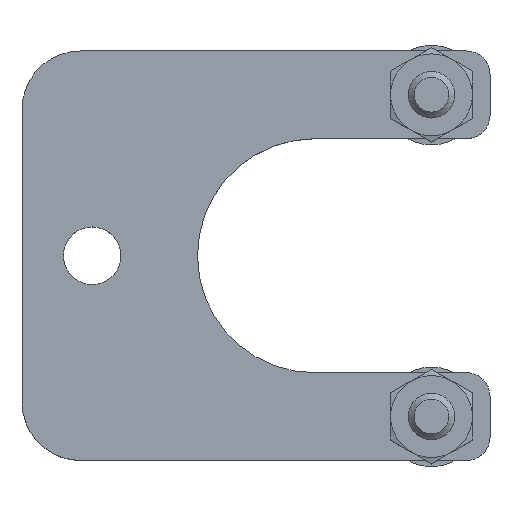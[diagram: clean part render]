
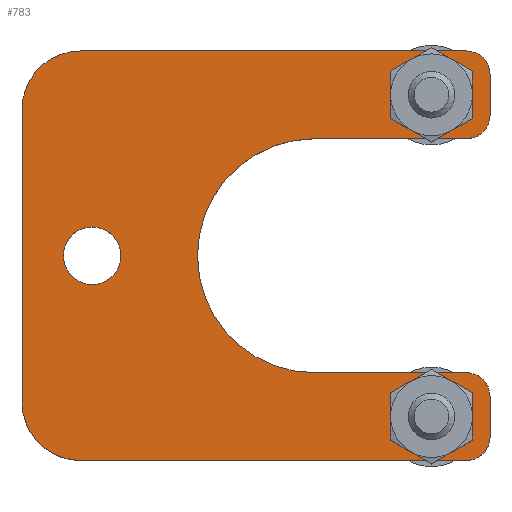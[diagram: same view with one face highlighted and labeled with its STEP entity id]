
A CAD part, top view. The second image highlights one B-rep face of the part: STEP entity #783.
In plain terms, the highlighted planar face has unit normal (0, 0, 1).
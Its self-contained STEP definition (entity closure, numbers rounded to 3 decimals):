
#112=FACE_BOUND('',#223,.T.);
#113=FACE_BOUND('',#224,.T.);
#114=FACE_BOUND('',#225,.T.);
#137=PLANE('',#863);
#169=FACE_OUTER_BOUND('',#222,.T.);
#222=EDGE_LOOP('',(#628,#629,#630,#631,#632,#633,#634,#635,#636,#637,#638,
#639,#640,#641));
#223=EDGE_LOOP('',(#642));
#224=EDGE_LOOP('',(#643));
#225=EDGE_LOOP('',(#644));
#272=LINE('',#1212,#306);
#281=LINE('',#1250,#315);
#285=LINE('',#1260,#319);
#288=LINE('',#1268,#322);
#291=LINE('',#1277,#325);
#293=LINE('',#1292,#327);
#295=LINE('',#1297,#329);
#306=VECTOR('',#951,3.5);
#315=VECTOR('',#986,13.);
#319=VECTOR('',#996,3.5);
#322=VECTOR('',#1005,33.);
#325=VECTOR('',#1014,25.);
#327=VECTOR('',#1034,13.);
#329=VECTOR('',#1042,33.);
#337=CIRCLE('',#827,2.);
#347=CIRCLE('',#840,2.);
#348=CIRCLE('',#843,2.);
#349=CIRCLE('',#846,2.);
#350=CIRCLE('',#849,5.);
#351=CIRCLE('',#852,5.);
#352=CIRCLE('',#854,1.621);
#353=CIRCLE('',#856,1.621);
#354=CIRCLE('',#858,2.459);
#355=CIRCLE('',#861,10.);
#381=VERTEX_POINT('',#1202);
#382=VERTEX_POINT('',#1204);
#384=VERTEX_POINT('',#1210);
#399=VERTEX_POINT('',#1244);
#400=VERTEX_POINT('',#1248);
#401=VERTEX_POINT('',#1252);
#402=VERTEX_POINT('',#1254);
#403=VERTEX_POINT('',#1258);
#404=VERTEX_POINT('',#1262);
#405=VERTEX_POINT('',#1266);
#406=VERTEX_POINT('',#1270);
#407=VERTEX_POINT('',#1272);
#408=VERTEX_POINT('',#1276);
#409=VERTEX_POINT('',#1282);
#410=VERTEX_POINT('',#1285);
#411=VERTEX_POINT('',#1288);
#412=VERTEX_POINT('',#1291);
#450=EDGE_CURVE('',#381,#382,#337,.T.);
#454=EDGE_CURVE('',#381,#384,#272,.T.);
#471=EDGE_CURVE('',#399,#384,#347,.T.);
#473=EDGE_CURVE('',#399,#400,#281,.T.);
#475=EDGE_CURVE('',#401,#402,#348,.T.);
#478=EDGE_CURVE('',#401,#403,#285,.T.);
#480=EDGE_CURVE('',#404,#403,#349,.T.);
#482=EDGE_CURVE('',#404,#405,#288,.T.);
#484=EDGE_CURVE('',#406,#407,#350,.T.);
#486=EDGE_CURVE('',#408,#407,#291,.T.);
#488=EDGE_CURVE('',#408,#405,#351,.T.);
#489=EDGE_CURVE('',#409,#409,#352,.T.);
#490=EDGE_CURVE('',#410,#410,#353,.T.);
#491=EDGE_CURVE('',#411,#411,#354,.T.);
#492=EDGE_CURVE('',#412,#402,#293,.T.);
#494=EDGE_CURVE('',#400,#412,#355,.T.);
#495=EDGE_CURVE('',#406,#382,#295,.T.);
#628=ORIENTED_EDGE('',*,*,#450,.F.);
#629=ORIENTED_EDGE('',*,*,#454,.T.);
#630=ORIENTED_EDGE('',*,*,#471,.F.);
#631=ORIENTED_EDGE('',*,*,#473,.T.);
#632=ORIENTED_EDGE('',*,*,#494,.T.);
#633=ORIENTED_EDGE('',*,*,#492,.T.);
#634=ORIENTED_EDGE('',*,*,#475,.F.);
#635=ORIENTED_EDGE('',*,*,#478,.T.);
#636=ORIENTED_EDGE('',*,*,#480,.F.);
#637=ORIENTED_EDGE('',*,*,#482,.T.);
#638=ORIENTED_EDGE('',*,*,#488,.F.);
#639=ORIENTED_EDGE('',*,*,#486,.T.);
#640=ORIENTED_EDGE('',*,*,#484,.F.);
#641=ORIENTED_EDGE('',*,*,#495,.T.);
#642=ORIENTED_EDGE('',*,*,#489,.T.);
#643=ORIENTED_EDGE('',*,*,#490,.T.);
#644=ORIENTED_EDGE('',*,*,#491,.T.);
#783=ADVANCED_FACE('',(#169,#112,#113,#114),#137,.T.);
#827=AXIS2_PLACEMENT_3D('',#1205,#944,#945);
#840=AXIS2_PLACEMENT_3D('',#1246,#981,#982);
#843=AXIS2_PLACEMENT_3D('',#1255,#990,#991);
#846=AXIS2_PLACEMENT_3D('',#1264,#1000,#1001);
#849=AXIS2_PLACEMENT_3D('',#1273,#1009,#1010);
#852=AXIS2_PLACEMENT_3D('',#1280,#1018,#1019);
#854=AXIS2_PLACEMENT_3D('',#1283,#1022,#1023);
#856=AXIS2_PLACEMENT_3D('',#1286,#1026,#1027);
#858=AXIS2_PLACEMENT_3D('',#1289,#1030,#1031);
#861=AXIS2_PLACEMENT_3D('',#1295,#1038,#1039);
#863=AXIS2_PLACEMENT_3D('',#1298,#1043,#1044);
#944=DIRECTION('center_axis',(0.,0.,-1.));
#945=DIRECTION('ref_axis',(0.707,-0.707,0.));
#951=DIRECTION('',(0.,1.,0.));
#981=DIRECTION('center_axis',(0.,0.,-1.));
#982=DIRECTION('ref_axis',(0.707,0.707,0.));
#986=DIRECTION('',(-1.,0.,0.));
#990=DIRECTION('center_axis',(0.,0.,-1.));
#991=DIRECTION('ref_axis',(0.707,-0.707,0.));
#996=DIRECTION('',(0.,1.,0.));
#1000=DIRECTION('center_axis',(0.,0.,-1.));
#1001=DIRECTION('ref_axis',(0.707,0.707,0.));
#1005=DIRECTION('',(-1.,0.,0.));
#1009=DIRECTION('center_axis',(0.,0.,-1.));
#1010=DIRECTION('ref_axis',(-0.707,-0.707,0.));
#1014=DIRECTION('',(0.,-1.,0.));
#1018=DIRECTION('center_axis',(0.,0.,-1.));
#1019=DIRECTION('ref_axis',(-0.707,0.707,0.));
#1022=DIRECTION('center_axis',(0.,0.,-1.));
#1023=DIRECTION('ref_axis',(1.,0.,0.));
#1026=DIRECTION('center_axis',(0.,0.,-1.));
#1027=DIRECTION('ref_axis',(1.,0.,0.));
#1030=DIRECTION('center_axis',(0.,0.,-1.));
#1031=DIRECTION('ref_axis',(1.,0.,0.));
#1034=DIRECTION('',(1.,0.,0.));
#1038=DIRECTION('center_axis',(0.,0.,-1.));
#1039=DIRECTION('ref_axis',(0.,1.,0.));
#1042=DIRECTION('',(1.,0.,0.));
#1043=DIRECTION('center_axis',(0.,0.,1.));
#1044=DIRECTION('ref_axis',(1.,0.,0.));
#1202=CARTESIAN_POINT('',(40.,-15.5,2.5));
#1204=CARTESIAN_POINT('',(38.,-17.5,2.5));
#1205=CARTESIAN_POINT('Origin',(38.,-15.5,2.5));
#1210=CARTESIAN_POINT('',(40.,-12.,2.5));
#1212=CARTESIAN_POINT('',(40.,-10.,2.5));
#1244=CARTESIAN_POINT('',(38.,-10.,2.5));
#1246=CARTESIAN_POINT('Origin',(38.,-12.,2.5));
#1248=CARTESIAN_POINT('',(25.,-10.,2.5));
#1250=CARTESIAN_POINT('',(25.,-10.,2.5));
#1252=CARTESIAN_POINT('',(40.,12.,2.5));
#1254=CARTESIAN_POINT('',(38.,10.,2.5));
#1255=CARTESIAN_POINT('Origin',(38.,12.,2.5));
#1258=CARTESIAN_POINT('',(40.,15.5,2.5));
#1260=CARTESIAN_POINT('',(40.,17.5,2.5));
#1262=CARTESIAN_POINT('',(38.,17.5,2.5));
#1264=CARTESIAN_POINT('Origin',(38.,15.5,2.5));
#1266=CARTESIAN_POINT('',(5.,17.5,2.5));
#1268=CARTESIAN_POINT('',(0.,17.5,2.5));
#1270=CARTESIAN_POINT('',(5.,-17.5,2.5));
#1272=CARTESIAN_POINT('',(0.,-12.5,2.5));
#1273=CARTESIAN_POINT('Origin',(5.,-12.5,2.5));
#1276=CARTESIAN_POINT('',(0.,12.5,2.5));
#1277=CARTESIAN_POINT('',(0.,-17.5,2.5));
#1280=CARTESIAN_POINT('Origin',(5.,12.5,2.5));
#1282=CARTESIAN_POINT('',(36.621,13.75,2.5));
#1283=CARTESIAN_POINT('Origin',(35.,13.75,2.5));
#1285=CARTESIAN_POINT('',(36.621,-13.75,2.5));
#1286=CARTESIAN_POINT('Origin',(35.,-13.75,2.5));
#1288=CARTESIAN_POINT('',(8.459,0.,2.5));
#1289=CARTESIAN_POINT('Origin',(6.,0.,2.5));
#1291=CARTESIAN_POINT('',(25.,10.,2.5));
#1292=CARTESIAN_POINT('',(40.,10.,2.5));
#1295=CARTESIAN_POINT('Origin',(25.,0.,2.5));
#1297=CARTESIAN_POINT('',(40.,-17.5,2.5));
#1298=CARTESIAN_POINT('Origin',(19.688,0.,2.5));
